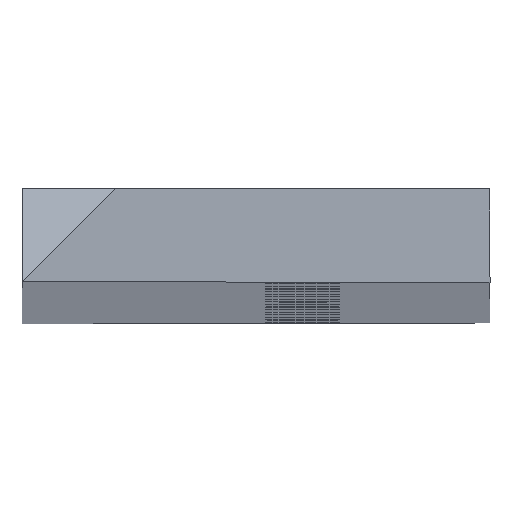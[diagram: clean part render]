
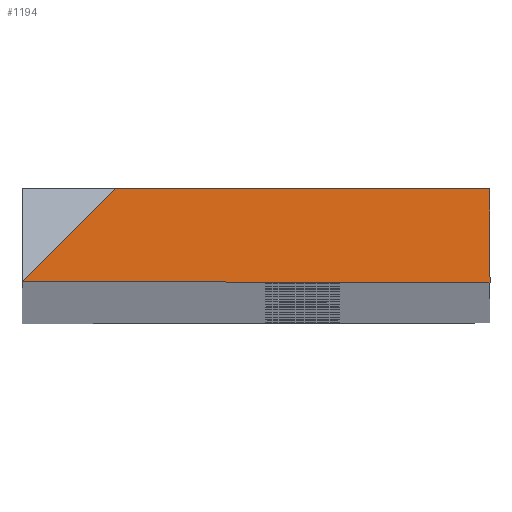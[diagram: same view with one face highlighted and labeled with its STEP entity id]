
A CAD part, top view. The second image highlights one B-rep face of the part: STEP entity #1194.
In plain terms, the highlighted planar face has unit normal (0.707, 0, 0.707).
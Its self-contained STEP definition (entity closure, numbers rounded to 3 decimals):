
#38 = EDGE_LOOP ( 'NONE', ( #1147, #83, #1142, #1127 ) ) ;
#83 = ORIENTED_EDGE ( 'NONE', *, *, #713, .T. ) ;
#187 = VERTEX_POINT ( 'NONE', #1892 ) ;
#195 = VERTEX_POINT ( 'NONE', #1899 ) ;
#217 = LINE ( 'NONE', #1857, #219 ) ;
#219 = VECTOR ( 'NONE', #1860, 1000. ) ;
#229 = VECTOR ( 'NONE', #1878, 1000. ) ;
#230 = LINE ( 'NONE', #1885, #229 ) ;
#239 = VECTOR ( 'NONE', #1837, 1000. ) ;
#254 = LINE ( 'NONE', #1827, #239 ) ;
#281 = VECTOR ( 'NONE', #1615, 1000. ) ;
#325 = LINE ( 'NONE', #1622, #281 ) ;
#500 = FACE_OUTER_BOUND ( 'NONE', #38, .T. ) ;
#711 = EDGE_CURVE ( 'NONE', #187, #1740, #217, .T. ) ;
#713 = EDGE_CURVE ( 'NONE', #187, #195, #254, .T. ) ;
#723 = EDGE_CURVE ( 'NONE', #195, #1749, #230, .T. ) ;
#879 = AXIS2_PLACEMENT_3D ( 'NONE', #1474, #1451, #1464 ) ;
#952 = EDGE_CURVE ( 'NONE', #1740, #1749, #325, .T. ) ;
#1127 = ORIENTED_EDGE ( 'NONE', *, *, #952, .F. ) ;
#1142 = ORIENTED_EDGE ( 'NONE', *, *, #723, .T. ) ;
#1147 = ORIENTED_EDGE ( 'NONE', *, *, #711, .F. ) ;
#1194 = ADVANCED_FACE ( 'NONE', ( #500 ), #1458, .F. ) ;
#1451 = DIRECTION ( 'NONE',  ( -0.707, 0., -0.707 ) ) ;
#1458 = PLANE ( 'NONE',  #879 ) ;
#1464 = DIRECTION ( 'NONE',  ( -0.707, 0., 0.707 ) ) ;
#1474 = CARTESIAN_POINT ( 'NONE',  ( -10., 10., 516. ) ) ;
#1615 = DIRECTION ( 'NONE',  ( 0., -1., 0. ) ) ;
#1622 = CARTESIAN_POINT ( 'NONE',  ( 0., 2., 506. ) ) ;
#1740 = VERTEX_POINT ( 'NONE', #2070 ) ;
#1749 = VERTEX_POINT ( 'NONE', #2047 ) ;
#1827 = CARTESIAN_POINT ( 'NONE',  ( -6.667, 3.333, 512.667 ) ) ;
#1837 = DIRECTION ( 'NONE',  ( -0.577, -0.577, 0.577 ) ) ;
#1857 = CARTESIAN_POINT ( 'NONE',  ( -9., 2., 515. ) ) ;
#1860 = DIRECTION ( 'NONE',  ( 0.707, 0., -0.707 ) ) ;
#1878 = DIRECTION ( 'NONE',  ( 0.707, 0., -0.707 ) ) ;
#1885 = CARTESIAN_POINT ( 'NONE',  ( -10., 0., 516. ) ) ;
#1892 = CARTESIAN_POINT ( 'NONE',  ( -8., 2., 514. ) ) ;
#1899 = CARTESIAN_POINT ( 'NONE',  ( -10., 0., 516. ) ) ;
#2047 = CARTESIAN_POINT ( 'NONE',  ( 0., 0., 506. ) ) ;
#2070 = CARTESIAN_POINT ( 'NONE',  ( 0., 2., 506. ) ) ;
